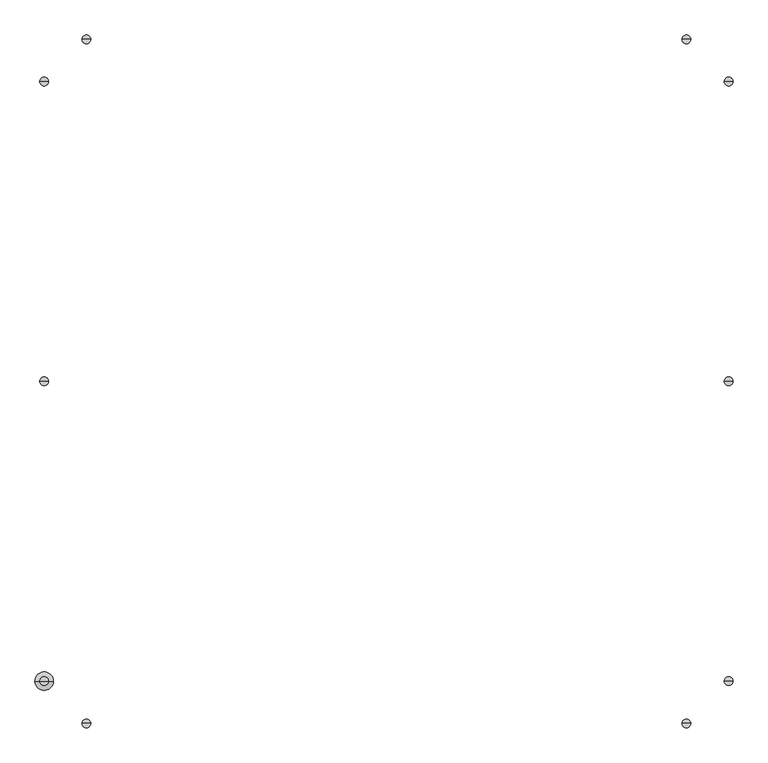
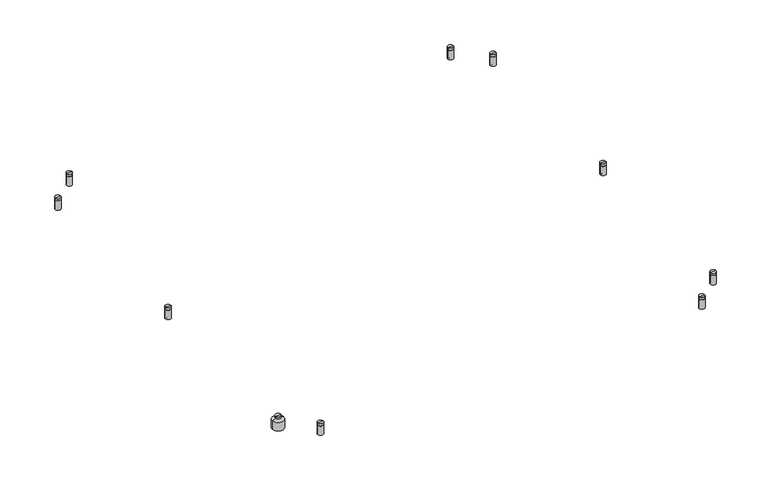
"""IFC4 building model written with IfcOpenShell, lengths in millimetres: light fixture geometry, ARTEMIDE-AoL-StandAlone-SquareRectangular_WallCeiling : StandALone_SemiRecessed_SquareRectangular-1911x1911mm 14020lm 3000K."""

from ifc_helpers import new_model, si_unit, frame, origin, place, context, project, spatial, polyline, circle_curve, source, transform, mapped, element, save
from ifc_brep_helpers import plane_surface, cylinder_surface, revolved_surface, advanced_brep


def light_fixture_c0763d3a(model_context):
    return source(origin(), model_context, "Body", "AdvancedBrep", [
        advanced_brep(
        [(25.0, 0.0, 54.0), (37.0, 0.0, 54.0), (13.0, 0.0, 54.0), (0.0, 0.0, 0.0), (50.0, 0.0, 0.0), (25.0, 0.0, 0.0), (0.0, 0.0, 37.5120373), (50.0, 0.0, 37.5120373), (13.0, 0.0, 44.4453706), (37.0, 0.0, 44.4453706)],
        [
            (0, 1),
            (1, 2, circle_curve(frame((25.0, 0.0, 54.0), z_axis=(0.0, 0.0, 1.0), x_axis=(1.0, 0.0, 0.0)), 12.0)),
            (2, 0),
            (2, 1, circle_curve(frame((25.0, 0.0, 54.0), z_axis=(0.0, 0.0, 1.0), x_axis=(1.0, 0.0, 0.0)), 12.0)),
            (3, 4, circle_curve(frame((25.0, 0.0, 0.0), z_axis=(0.0, 0.0, -1.0), x_axis=(1.0, 0.0, 0.0)), 25.0)),
            (4, 5),
            (5, 3),
            (4, 3, circle_curve(frame((25.0, 0.0, 0.0), z_axis=(0.0, 0.0, -1.0), x_axis=(1.0, 0.0, 0.0)), 25.0)),
            (6, 7, circle_curve(frame((25.0, 0.0, 37.5120373), z_axis=(0.0, 0.0, -1.0), x_axis=(1.0, 0.0, 0.0)), 25.0)),
            (7, 4),
            (3, 6),
            (7, 6, circle_curve(frame((25.0, 0.0, 37.5120373), z_axis=(0.0, 0.0, -1.0), x_axis=(1.0, 0.0, 0.0)), 25.0)),
            (8, 9, circle_curve(frame((25.0, 0.0, 44.4453706), z_axis=(0.0, 0.0, -1.0), x_axis=(1.0, 0.0, 0.0)), 12.0)),
            (9, 7),
            (6, 8),
            (9, 8, circle_curve(frame((25.0, 0.0, 44.4453706), z_axis=(0.0, 0.0, -1.0), x_axis=(1.0, 0.0, 0.0)), 12.0)),
            (1, 9),
            (8, 2),
        ],
        [
            plane_surface(frame((25.0, 0.0, 54.0), z_axis=(0.0, 0.0, 1.0), x_axis=(1.0, 0.0, 0.0))),
            plane_surface(frame((25.0, 0.0, 0.0), z_axis=(0.0, 0.0, -1.0), x_axis=(1.0, 0.0, 0.0))),
            cylinder_surface(frame((25.0, 0.0, -58.83358), z_axis=(0.0, 0.0, 1.0), x_axis=(1.0, 0.0, 0.0)), 25.0),
            revolved_surface(polyline([(50.0, 0.0, 37.5120373), (37.0, 0.0, 44.4453706)]), (25.0, 0.0, -58.83358), (0.0, 0.0, 1.0)),
            cylinder_surface(frame((25.0, 0.0, -58.83358), z_axis=(0.0, 0.0, 1.0), x_axis=(1.0, 0.0, 0.0)), 12.0),
        ],
        [
            (0, [[1, 2, 3]]),
            (0, [[-3, 4, -1]]),
            (1, [[5, 6, 7]]),
            (1, [[8, -7, -6]]),
            (2, [[9, 10, -5, 11]]),
            (2, [[12, -11, -8, -10]]),
            (3, [[13, 14, -9, 15]]),
            (3, [[16, -15, -12, -14]]),
            (4, [[-2, 17, -13, 18]]),
            (4, [[-4, -18, -16, -17]]),
        ],
    ),
        advanced_brep(
        [(152.0, 1746.0, 1.0), (128.0, 1746.0, 1.0), (134.5, 1746.0, 1.0), (145.5, 1746.0, 1.0), (152.0, 1746.0, 42.5), (128.0, 1746.0, 42.5), (149.5243756, 1746.0, 42.5), (130.4756244, 1746.0, 42.5), (149.5243756, 1746.0, 43.4995055), (130.4756244, 1746.0, 43.4995055), (152.0, 1746.0, 43.4995055), (128.0, 1746.0, 43.4995055), (152.0, 1746.0, 52.9579379), (128.0, 1746.0, 52.9579379), (140.0, 1746.0, 52.9579379), (145.5, 1746.0, 0.0), (134.5, 1746.0, 0.0), (140.0, 1746.0, 0.0)],
        [
            (0, 1, circle_curve(frame((140.0, 1746.0, 1.0), z_axis=(0.0, 0.0, -1.0), x_axis=(-1.0, 0.0, 0.0)), 12.0)),
            (1, 2),
            (2, 3, circle_curve(frame((140.0, 1746.0, 1.0), z_axis=(0.0, 0.0, 1.0), x_axis=(-1.0, 0.0, 0.0)), 5.5)),
            (3, 0),
            (1, 0, circle_curve(frame((140.0, 1746.0, 1.0), z_axis=(0.0, 0.0, -1.0), x_axis=(-1.0, 0.0, 0.0)), 12.0)),
            (3, 2, circle_curve(frame((140.0, 1746.0, 1.0), z_axis=(0.0, 0.0, 1.0), x_axis=(-1.0, 0.0, 0.0)), 5.5)),
            (4, 5, circle_curve(frame((140.0, 1746.0, 42.5), z_axis=(0.0, 0.0, -1.0), x_axis=(-1.0, 0.0, 0.0)), 12.0)),
            (5, 1),
            (0, 4),
            (5, 4, circle_curve(frame((140.0, 1746.0, 42.5), z_axis=(0.0, 0.0, -1.0), x_axis=(-1.0, 0.0, 0.0)), 12.0)),
            (6, 7, circle_curve(frame((140.0, 1746.0, 42.5), z_axis=(0.0, 0.0, -1.0), x_axis=(-1.0, 0.0, 0.0)), 9.5243756)),
            (7, 5),
            (4, 6),
            (7, 6, circle_curve(frame((140.0, 1746.0, 42.5), z_axis=(0.0, 0.0, -1.0), x_axis=(-1.0, 0.0, 0.0)), 9.5243756)),
            (8, 9, circle_curve(frame((140.0, 1746.0, 43.4995055), z_axis=(0.0, 0.0, -1.0), x_axis=(-1.0, 0.0, 0.0)), 9.5243756)),
            (9, 7),
            (6, 8),
            (9, 8, circle_curve(frame((140.0, 1746.0, 43.4995055), z_axis=(0.0, 0.0, -1.0), x_axis=(-1.0, 0.0, 0.0)), 9.5243756)),
            (10, 11, circle_curve(frame((140.0, 1746.0, 43.4995055), z_axis=(0.0, 0.0, -1.0), x_axis=(-1.0, 0.0, 0.0)), 12.0)),
            (11, 9),
            (8, 10),
            (11, 10, circle_curve(frame((140.0, 1746.0, 43.4995055), z_axis=(0.0, 0.0, -1.0), x_axis=(-1.0, 0.0, 0.0)), 12.0)),
            (12, 13, circle_curve(frame((140.0, 1746.0, 52.9579379), z_axis=(0.0, 0.0, -1.0), x_axis=(-1.0, 0.0, 0.0)), 12.0)),
            (13, 11),
            (10, 12),
            (13, 12, circle_curve(frame((140.0, 1746.0, 52.9579379), z_axis=(0.0, 0.0, -1.0), x_axis=(-1.0, 0.0, 0.0)), 12.0)),
            (14, 13),
            (12, 14),
            (15, 16, circle_curve(frame((140.0, 1746.0, 0.0), z_axis=(0.0, 0.0, -1.0), x_axis=(-1.0, 0.0, 0.0)), 5.5)),
            (16, 17),
            (17, 15),
            (16, 15, circle_curve(frame((140.0, 1746.0, 0.0), z_axis=(0.0, 0.0, -1.0), x_axis=(-1.0, 0.0, 0.0)), 5.5)),
            (2, 16),
            (15, 3),
        ],
        [
            plane_surface(frame((140.0, 1746.0, 1.0), z_axis=(0.0, 0.0, -1.0), x_axis=(-1.0, 0.0, 0.0))),
            cylinder_surface(frame((140.0, 1746.0, -58.83358), z_axis=(0.0, 0.0, 1.0), x_axis=(-1.0, 0.0, 0.0)), 12.0),
            plane_surface(frame((140.0, 1746.0, 42.5), z_axis=(0.0, 0.0, 1.0), x_axis=(-1.0, 0.0, 0.0))),
            cylinder_surface(frame((140.0, 1746.0, -58.83358), z_axis=(0.0, 0.0, 1.0), x_axis=(-1.0, 0.0, 0.0)), 9.5243756),
            plane_surface(frame((140.0, 1746.0, 43.4995055), z_axis=(0.0, 0.0, -1.0), x_axis=(-1.0, 0.0, 0.0))),
            plane_surface(frame((140.0, 1746.0, 52.9579379), z_axis=(0.0, 0.0, 1.0), x_axis=(-1.0, 0.0, 0.0))),
            plane_surface(frame((140.0, 1746.0, 0.0), z_axis=(0.0, 0.0, -1.0), x_axis=(-1.0, 0.0, 0.0))),
            cylinder_surface(frame((140.0, 1746.0, -58.83358), z_axis=(0.0, 0.0, 1.0), x_axis=(-1.0, 0.0, 0.0)), 5.5),
        ],
        [
            (0, [[1, 2, 3, 4]]),
            (0, [[5, -4, 6, -2]]),
            (1, [[7, 8, -1, 9]]),
            (1, [[10, -9, -5, -8]]),
            (2, [[11, 12, -7, 13]]),
            (2, [[14, -13, -10, -12]]),
            (3, [[15, 16, -11, 17]]),
            (3, [[18, -17, -14, -16]]),
            (4, [[19, 20, -15, 21]]),
            (4, [[22, -21, -18, -20]]),
            (1, [[23, 24, -19, 25]]),
            (1, [[26, -25, -22, -24]]),
            (5, [[27, -23, 28]]),
            (5, [[-28, -26, -27]]),
            (6, [[29, 30, 31]]),
            (6, [[32, -31, -30]]),
            (7, [[-3, 33, -29, 34]]),
            (7, [[-6, -34, -32, -33]]),
        ],
    ),
        advanced_brep(
        [(152.0, -115.0, 1.0), (128.0, -115.0, 1.0), (134.5, -115.0, 1.0), (145.5, -115.0, 1.0), (152.0, -115.0, 42.5), (128.0, -115.0, 42.5), (149.5243756, -115.0, 42.5), (130.4756244, -115.0, 42.5), (149.5243756, -115.0, 43.4995055), (130.4756244, -115.0, 43.4995055), (152.0, -115.0, 43.4995055), (128.0, -115.0, 43.4995055), (152.0, -115.0, 52.9579379), (128.0, -115.0, 52.9579379), (140.0, -115.0, 52.9579379), (145.5, -115.0, 0.0), (134.5, -115.0, 0.0), (140.0, -115.0, 0.0)],
        [
            (0, 1, circle_curve(frame((140.0, -115.0, 1.0), z_axis=(0.0, 0.0, -1.0), x_axis=(-1.0, 0.0, 0.0)), 12.0)),
            (1, 2),
            (2, 3, circle_curve(frame((140.0, -115.0, 1.0), z_axis=(0.0, 0.0, 1.0), x_axis=(-1.0, 0.0, 0.0)), 5.5)),
            (3, 0),
            (1, 0, circle_curve(frame((140.0, -115.0, 1.0), z_axis=(0.0, 0.0, -1.0), x_axis=(-1.0, 0.0, 0.0)), 12.0)),
            (3, 2, circle_curve(frame((140.0, -115.0, 1.0), z_axis=(0.0, 0.0, 1.0), x_axis=(-1.0, 0.0, 0.0)), 5.5)),
            (4, 5, circle_curve(frame((140.0, -115.0, 42.5), z_axis=(0.0, 0.0, -1.0), x_axis=(-1.0, 0.0, 0.0)), 12.0)),
            (5, 1),
            (0, 4),
            (5, 4, circle_curve(frame((140.0, -115.0, 42.5), z_axis=(0.0, 0.0, -1.0), x_axis=(-1.0, 0.0, 0.0)), 12.0)),
            (6, 7, circle_curve(frame((140.0, -115.0, 42.5), z_axis=(0.0, 0.0, -1.0), x_axis=(-1.0, 0.0, 0.0)), 9.5243756)),
            (7, 5),
            (4, 6),
            (7, 6, circle_curve(frame((140.0, -115.0, 42.5), z_axis=(0.0, 0.0, -1.0), x_axis=(-1.0, 0.0, 0.0)), 9.5243756)),
            (8, 9, circle_curve(frame((140.0, -115.0, 43.4995055), z_axis=(0.0, 0.0, -1.0), x_axis=(-1.0, 0.0, 0.0)), 9.5243756)),
            (9, 7),
            (6, 8),
            (9, 8, circle_curve(frame((140.0, -115.0, 43.4995055), z_axis=(0.0, 0.0, -1.0), x_axis=(-1.0, 0.0, 0.0)), 9.5243756)),
            (10, 11, circle_curve(frame((140.0, -115.0, 43.4995055), z_axis=(0.0, 0.0, -1.0), x_axis=(-1.0, 0.0, 0.0)), 12.0)),
            (11, 9),
            (8, 10),
            (11, 10, circle_curve(frame((140.0, -115.0, 43.4995055), z_axis=(0.0, 0.0, -1.0), x_axis=(-1.0, 0.0, 0.0)), 12.0)),
            (12, 13, circle_curve(frame((140.0, -115.0, 52.9579379), z_axis=(0.0, 0.0, -1.0), x_axis=(-1.0, 0.0, 0.0)), 12.0)),
            (13, 11),
            (10, 12),
            (13, 12, circle_curve(frame((140.0, -115.0, 52.9579379), z_axis=(0.0, 0.0, -1.0), x_axis=(-1.0, 0.0, 0.0)), 12.0)),
            (14, 13),
            (12, 14),
            (15, 16, circle_curve(frame((140.0, -115.0, 0.0), z_axis=(0.0, 0.0, -1.0), x_axis=(-1.0, 0.0, 0.0)), 5.5)),
            (16, 17),
            (17, 15),
            (16, 15, circle_curve(frame((140.0, -115.0, 0.0), z_axis=(0.0, 0.0, -1.0), x_axis=(-1.0, 0.0, 0.0)), 5.5)),
            (2, 16),
            (15, 3),
        ],
        [
            plane_surface(frame((140.0, -115.0, 1.0), z_axis=(0.0, 0.0, -1.0), x_axis=(-1.0, 0.0, 0.0))),
            cylinder_surface(frame((140.0, -115.0, -58.83358), z_axis=(0.0, 0.0, 1.0), x_axis=(-1.0, 0.0, 0.0)), 12.0),
            plane_surface(frame((140.0, -115.0, 42.5), z_axis=(0.0, 0.0, 1.0), x_axis=(-1.0, 0.0, 0.0))),
            cylinder_surface(frame((140.0, -115.0, -58.83358), z_axis=(0.0, 0.0, 1.0), x_axis=(-1.0, 0.0, 0.0)), 9.5243756),
            plane_surface(frame((140.0, -115.0, 43.4995055), z_axis=(0.0, 0.0, -1.0), x_axis=(-1.0, 0.0, 0.0))),
            plane_surface(frame((140.0, -115.0, 52.9579379), z_axis=(0.0, 0.0, 1.0), x_axis=(-1.0, 0.0, 0.0))),
            plane_surface(frame((140.0, -115.0, 0.0), z_axis=(0.0, 0.0, -1.0), x_axis=(-1.0, 0.0, 0.0))),
            cylinder_surface(frame((140.0, -115.0, -58.83358), z_axis=(0.0, 0.0, 1.0), x_axis=(-1.0, 0.0, 0.0)), 5.5),
        ],
        [
            (0, [[1, 2, 3, 4]]),
            (0, [[5, -4, 6, -2]]),
            (1, [[7, 8, -1, 9]]),
            (1, [[10, -9, -5, -8]]),
            (2, [[11, 12, -7, 13]]),
            (2, [[14, -13, -10, -12]]),
            (3, [[15, 16, -11, 17]]),
            (3, [[18, -17, -14, -16]]),
            (4, [[19, 20, -15, 21]]),
            (4, [[22, -21, -18, -20]]),
            (1, [[23, 24, -19, 25]]),
            (1, [[26, -25, -22, -24]]),
            (5, [[27, -23, 28]]),
            (5, [[-28, -26, -27]]),
            (6, [[29, 30, 31]]),
            (6, [[32, -31, -30]]),
            (7, [[-3, 33, -29, 34]]),
            (7, [[-6, -34, -32, -33]]),
        ],
    ),
        advanced_brep(
        [(1783.0, 1746.0, 1.0), (1759.0, 1746.0, 1.0), (1765.5, 1746.0, 1.0), (1776.5, 1746.0, 1.0), (1783.0, 1746.0, 42.5), (1759.0, 1746.0, 42.5), (1780.5243756, 1746.0, 42.5), (1761.4756244, 1746.0, 42.5), (1780.5243756, 1746.0, 43.4995055), (1761.4756244, 1746.0, 43.4995055), (1783.0, 1746.0, 43.4995055), (1759.0, 1746.0, 43.4995055), (1783.0, 1746.0, 52.9579379), (1759.0, 1746.0, 52.9579379), (1771.0, 1746.0, 52.9579379), (1776.5, 1746.0, 0.0), (1765.5, 1746.0, 0.0), (1771.0, 1746.0, 0.0)],
        [
            (0, 1, circle_curve(frame((1771.0, 1746.0, 1.0), z_axis=(0.0, 0.0, -1.0), x_axis=(-1.0, 0.0, 0.0)), 12.0)),
            (1, 2),
            (2, 3, circle_curve(frame((1771.0, 1746.0, 1.0), z_axis=(0.0, 0.0, 1.0), x_axis=(-1.0, 0.0, 0.0)), 5.5)),
            (3, 0),
            (1, 0, circle_curve(frame((1771.0, 1746.0, 1.0), z_axis=(0.0, 0.0, -1.0), x_axis=(-1.0, 0.0, 0.0)), 12.0)),
            (3, 2, circle_curve(frame((1771.0, 1746.0, 1.0), z_axis=(0.0, 0.0, 1.0), x_axis=(-1.0, 0.0, 0.0)), 5.5)),
            (4, 5, circle_curve(frame((1771.0, 1746.0, 42.5), z_axis=(0.0, 0.0, -1.0), x_axis=(-1.0, 0.0, 0.0)), 12.0)),
            (5, 1),
            (0, 4),
            (5, 4, circle_curve(frame((1771.0, 1746.0, 42.5), z_axis=(0.0, 0.0, -1.0), x_axis=(-1.0, 0.0, 0.0)), 12.0)),
            (6, 7, circle_curve(frame((1771.0, 1746.0, 42.5), z_axis=(0.0, 0.0, -1.0), x_axis=(-1.0, 0.0, 0.0)), 9.5243756)),
            (7, 5),
            (4, 6),
            (7, 6, circle_curve(frame((1771.0, 1746.0, 42.5), z_axis=(0.0, 0.0, -1.0), x_axis=(-1.0, 0.0, 0.0)), 9.5243756)),
            (8, 9, circle_curve(frame((1771.0, 1746.0, 43.4995055), z_axis=(0.0, 0.0, -1.0), x_axis=(-1.0, 0.0, 0.0)), 9.5243756)),
            (9, 7),
            (6, 8),
            (9, 8, circle_curve(frame((1771.0, 1746.0, 43.4995055), z_axis=(0.0, 0.0, -1.0), x_axis=(-1.0, 0.0, 0.0)), 9.5243756)),
            (10, 11, circle_curve(frame((1771.0, 1746.0, 43.4995055), z_axis=(0.0, 0.0, -1.0), x_axis=(-1.0, 0.0, 0.0)), 12.0)),
            (11, 9),
            (8, 10),
            (11, 10, circle_curve(frame((1771.0, 1746.0, 43.4995055), z_axis=(0.0, 0.0, -1.0), x_axis=(-1.0, 0.0, 0.0)), 12.0)),
            (12, 13, circle_curve(frame((1771.0, 1746.0, 52.9579379), z_axis=(0.0, 0.0, -1.0), x_axis=(-1.0, 0.0, 0.0)), 12.0)),
            (13, 11),
            (10, 12),
            (13, 12, circle_curve(frame((1771.0, 1746.0, 52.9579379), z_axis=(0.0, 0.0, -1.0), x_axis=(-1.0, 0.0, 0.0)), 12.0)),
            (14, 13),
            (12, 14),
            (15, 16, circle_curve(frame((1771.0, 1746.0, 0.0), z_axis=(0.0, 0.0, -1.0), x_axis=(-1.0, 0.0, 0.0)), 5.5)),
            (16, 17),
            (17, 15),
            (16, 15, circle_curve(frame((1771.0, 1746.0, 0.0), z_axis=(0.0, 0.0, -1.0), x_axis=(-1.0, 0.0, 0.0)), 5.5)),
            (2, 16),
            (15, 3),
        ],
        [
            plane_surface(frame((1771.0, 1746.0, 1.0), z_axis=(0.0, 0.0, -1.0), x_axis=(-1.0, 0.0, 0.0))),
            cylinder_surface(frame((1771.0, 1746.0, -58.83358), z_axis=(0.0, 0.0, 1.0), x_axis=(-1.0, 0.0, 0.0)), 12.0),
            plane_surface(frame((1771.0, 1746.0, 42.5), z_axis=(0.0, 0.0, 1.0), x_axis=(-1.0, 0.0, 0.0))),
            cylinder_surface(frame((1771.0, 1746.0, -58.83358), z_axis=(0.0, 0.0, 1.0), x_axis=(-1.0, 0.0, 0.0)), 9.5243756),
            plane_surface(frame((1771.0, 1746.0, 43.4995055), z_axis=(0.0, 0.0, -1.0), x_axis=(-1.0, 0.0, 0.0))),
            plane_surface(frame((1771.0, 1746.0, 52.9579379), z_axis=(0.0, 0.0, 1.0), x_axis=(-1.0, 0.0, 0.0))),
            plane_surface(frame((1771.0, 1746.0, 0.0), z_axis=(0.0, 0.0, -1.0), x_axis=(-1.0, 0.0, 0.0))),
            cylinder_surface(frame((1771.0, 1746.0, -58.83358), z_axis=(0.0, 0.0, 1.0), x_axis=(-1.0, 0.0, 0.0)), 5.5),
        ],
        [
            (0, [[1, 2, 3, 4]]),
            (0, [[5, -4, 6, -2]]),
            (1, [[7, 8, -1, 9]]),
            (1, [[10, -9, -5, -8]]),
            (2, [[11, 12, -7, 13]]),
            (2, [[14, -13, -10, -12]]),
            (3, [[15, 16, -11, 17]]),
            (3, [[18, -17, -14, -16]]),
            (4, [[19, 20, -15, 21]]),
            (4, [[22, -21, -18, -20]]),
            (1, [[23, 24, -19, 25]]),
            (1, [[26, -25, -22, -24]]),
            (5, [[27, -23, 28]]),
            (5, [[-28, -26, -27]]),
            (6, [[29, 30, 31]]),
            (6, [[32, -31, -30]]),
            (7, [[-3, 33, -29, 34]]),
            (7, [[-6, -34, -32, -33]]),
        ],
    ),
        advanced_brep(
        [(1783.0, -115.0, 1.0), (1759.0, -115.0, 1.0), (1765.5, -115.0, 1.0), (1776.5, -115.0, 1.0), (1783.0, -115.0, 42.5), (1759.0, -115.0, 42.5), (1780.5243756, -115.0, 42.5), (1761.4756244, -115.0, 42.5), (1780.5243756, -115.0, 43.4995055), (1761.4756244, -115.0, 43.4995055), (1783.0, -115.0, 43.4995055), (1759.0, -115.0, 43.4995055), (1783.0, -115.0, 52.9579379), (1759.0, -115.0, 52.9579379), (1771.0, -115.0, 52.9579379), (1776.5, -115.0, 0.0), (1765.5, -115.0, 0.0), (1771.0, -115.0, 0.0)],
        [
            (0, 1, circle_curve(frame((1771.0, -115.0, 1.0), z_axis=(0.0, 0.0, -1.0), x_axis=(-1.0, 0.0, 0.0)), 12.0)),
            (1, 2),
            (2, 3, circle_curve(frame((1771.0, -115.0, 1.0), z_axis=(0.0, 0.0, 1.0), x_axis=(-1.0, 0.0, 0.0)), 5.5)),
            (3, 0),
            (1, 0, circle_curve(frame((1771.0, -115.0, 1.0), z_axis=(0.0, 0.0, -1.0), x_axis=(-1.0, 0.0, 0.0)), 12.0)),
            (3, 2, circle_curve(frame((1771.0, -115.0, 1.0), z_axis=(0.0, 0.0, 1.0), x_axis=(-1.0, 0.0, 0.0)), 5.5)),
            (4, 5, circle_curve(frame((1771.0, -115.0, 42.5), z_axis=(0.0, 0.0, -1.0), x_axis=(-1.0, 0.0, 0.0)), 12.0)),
            (5, 1),
            (0, 4),
            (5, 4, circle_curve(frame((1771.0, -115.0, 42.5), z_axis=(0.0, 0.0, -1.0), x_axis=(-1.0, 0.0, 0.0)), 12.0)),
            (6, 7, circle_curve(frame((1771.0, -115.0, 42.5), z_axis=(0.0, 0.0, -1.0), x_axis=(-1.0, 0.0, 0.0)), 9.5243756)),
            (7, 5),
            (4, 6),
            (7, 6, circle_curve(frame((1771.0, -115.0, 42.5), z_axis=(0.0, 0.0, -1.0), x_axis=(-1.0, 0.0, 0.0)), 9.5243756)),
            (8, 9, circle_curve(frame((1771.0, -115.0, 43.4995055), z_axis=(0.0, 0.0, -1.0), x_axis=(-1.0, 0.0, 0.0)), 9.5243756)),
            (9, 7),
            (6, 8),
            (9, 8, circle_curve(frame((1771.0, -115.0, 43.4995055), z_axis=(0.0, 0.0, -1.0), x_axis=(-1.0, 0.0, 0.0)), 9.5243756)),
            (10, 11, circle_curve(frame((1771.0, -115.0, 43.4995055), z_axis=(0.0, 0.0, -1.0), x_axis=(-1.0, 0.0, 0.0)), 12.0)),
            (11, 9),
            (8, 10),
            (11, 10, circle_curve(frame((1771.0, -115.0, 43.4995055), z_axis=(0.0, 0.0, -1.0), x_axis=(-1.0, 0.0, 0.0)), 12.0)),
            (12, 13, circle_curve(frame((1771.0, -115.0, 52.9579379), z_axis=(0.0, 0.0, -1.0), x_axis=(-1.0, 0.0, 0.0)), 12.0)),
            (13, 11),
            (10, 12),
            (13, 12, circle_curve(frame((1771.0, -115.0, 52.9579379), z_axis=(0.0, 0.0, -1.0), x_axis=(-1.0, 0.0, 0.0)), 12.0)),
            (14, 13),
            (12, 14),
            (15, 16, circle_curve(frame((1771.0, -115.0, 0.0), z_axis=(0.0, 0.0, -1.0), x_axis=(-1.0, 0.0, 0.0)), 5.5)),
            (16, 17),
            (17, 15),
            (16, 15, circle_curve(frame((1771.0, -115.0, 0.0), z_axis=(0.0, 0.0, -1.0), x_axis=(-1.0, 0.0, 0.0)), 5.5)),
            (2, 16),
            (15, 3),
        ],
        [
            plane_surface(frame((1771.0, -115.0, 1.0), z_axis=(0.0, 0.0, -1.0), x_axis=(-1.0, 0.0, 0.0))),
            cylinder_surface(frame((1771.0, -115.0, -58.83358), z_axis=(0.0, 0.0, 1.0), x_axis=(-1.0, 0.0, 0.0)), 12.0),
            plane_surface(frame((1771.0, -115.0, 42.5), z_axis=(0.0, 0.0, 1.0), x_axis=(-1.0, 0.0, 0.0))),
            cylinder_surface(frame((1771.0, -115.0, -58.83358), z_axis=(0.0, 0.0, 1.0), x_axis=(-1.0, 0.0, 0.0)), 9.5243756),
            plane_surface(frame((1771.0, -115.0, 43.4995055), z_axis=(0.0, 0.0, -1.0), x_axis=(-1.0, 0.0, 0.0))),
            plane_surface(frame((1771.0, -115.0, 52.9579379), z_axis=(0.0, 0.0, 1.0), x_axis=(-1.0, 0.0, 0.0))),
            plane_surface(frame((1771.0, -115.0, 0.0), z_axis=(0.0, 0.0, -1.0), x_axis=(-1.0, 0.0, 0.0))),
            cylinder_surface(frame((1771.0, -115.0, -58.83358), z_axis=(0.0, 0.0, 1.0), x_axis=(-1.0, 0.0, 0.0)), 5.5),
        ],
        [
            (0, [[1, 2, 3, 4]]),
            (0, [[5, -4, 6, -2]]),
            (1, [[7, 8, -1, 9]]),
            (1, [[10, -9, -5, -8]]),
            (2, [[11, 12, -7, 13]]),
            (2, [[14, -13, -10, -12]]),
            (3, [[15, 16, -11, 17]]),
            (3, [[18, -17, -14, -16]]),
            (4, [[19, 20, -15, 21]]),
            (4, [[22, -21, -18, -20]]),
            (1, [[23, 24, -19, 25]]),
            (1, [[26, -25, -22, -24]]),
            (5, [[27, -23, 28]]),
            (5, [[-28, -26, -27]]),
            (6, [[29, 30, 31]]),
            (6, [[32, -31, -30]]),
            (7, [[-3, 33, -29, 34]]),
            (7, [[-6, -34, -32, -33]]),
        ],
    ),
        advanced_brep(
        [(37.0, 1631.0, 1.0), (13.0, 1631.0, 1.0), (19.5, 1631.0, 1.0), (30.5, 1631.0, 1.0), (37.0, 1631.0, 42.5), (13.0, 1631.0, 42.5), (34.5243756, 1631.0, 42.5), (15.4756244, 1631.0, 42.5), (34.5243756, 1631.0, 43.4995055), (15.4756244, 1631.0, 43.4995055), (37.0, 1631.0, 43.4995055), (13.0, 1631.0, 43.4995055), (37.0, 1631.0, 52.9579379), (13.0, 1631.0, 52.9579379), (25.0, 1631.0, 52.9579379), (30.5, 1631.0, 0.0), (19.5, 1631.0, 0.0), (25.0, 1631.0, 0.0)],
        [
            (0, 1, circle_curve(frame((25.0, 1631.0, 1.0), z_axis=(0.0, 0.0, -1.0), x_axis=(-1.0, 0.0, 0.0)), 12.0)),
            (1, 2),
            (2, 3, circle_curve(frame((25.0, 1631.0, 1.0), z_axis=(0.0, 0.0, 1.0), x_axis=(-1.0, 0.0, 0.0)), 5.5)),
            (3, 0),
            (1, 0, circle_curve(frame((25.0, 1631.0, 1.0), z_axis=(0.0, 0.0, -1.0), x_axis=(-1.0, 0.0, 0.0)), 12.0)),
            (3, 2, circle_curve(frame((25.0, 1631.0, 1.0), z_axis=(0.0, 0.0, 1.0), x_axis=(-1.0, 0.0, 0.0)), 5.5)),
            (4, 5, circle_curve(frame((25.0, 1631.0, 42.5), z_axis=(0.0, 0.0, -1.0), x_axis=(-1.0, 0.0, 0.0)), 12.0)),
            (5, 1),
            (0, 4),
            (5, 4, circle_curve(frame((25.0, 1631.0, 42.5), z_axis=(0.0, 0.0, -1.0), x_axis=(-1.0, 0.0, 0.0)), 12.0)),
            (6, 7, circle_curve(frame((25.0, 1631.0, 42.5), z_axis=(0.0, 0.0, -1.0), x_axis=(-1.0, 0.0, 0.0)), 9.5243756)),
            (7, 5),
            (4, 6),
            (7, 6, circle_curve(frame((25.0, 1631.0, 42.5), z_axis=(0.0, 0.0, -1.0), x_axis=(-1.0, 0.0, 0.0)), 9.5243756)),
            (8, 9, circle_curve(frame((25.0, 1631.0, 43.4995055), z_axis=(0.0, 0.0, -1.0), x_axis=(-1.0, 0.0, 0.0)), 9.5243756)),
            (9, 7),
            (6, 8),
            (9, 8, circle_curve(frame((25.0, 1631.0, 43.4995055), z_axis=(0.0, 0.0, -1.0), x_axis=(-1.0, 0.0, 0.0)), 9.5243756)),
            (10, 11, circle_curve(frame((25.0, 1631.0, 43.4995055), z_axis=(0.0, 0.0, -1.0), x_axis=(-1.0, 0.0, 0.0)), 12.0)),
            (11, 9),
            (8, 10),
            (11, 10, circle_curve(frame((25.0, 1631.0, 43.4995055), z_axis=(0.0, 0.0, -1.0), x_axis=(-1.0, 0.0, 0.0)), 12.0)),
            (12, 13, circle_curve(frame((25.0, 1631.0, 52.9579379), z_axis=(0.0, 0.0, -1.0), x_axis=(-1.0, 0.0, 0.0)), 12.0)),
            (13, 11),
            (10, 12),
            (13, 12, circle_curve(frame((25.0, 1631.0, 52.9579379), z_axis=(0.0, 0.0, -1.0), x_axis=(-1.0, 0.0, 0.0)), 12.0)),
            (14, 13),
            (12, 14),
            (15, 16, circle_curve(frame((25.0, 1631.0, 0.0), z_axis=(0.0, 0.0, -1.0), x_axis=(-1.0, 0.0, 0.0)), 5.5)),
            (16, 17),
            (17, 15),
            (16, 15, circle_curve(frame((25.0, 1631.0, 0.0), z_axis=(0.0, 0.0, -1.0), x_axis=(-1.0, 0.0, 0.0)), 5.5)),
            (2, 16),
            (15, 3),
        ],
        [
            plane_surface(frame((25.0, 1631.0, 1.0), z_axis=(0.0, 0.0, -1.0), x_axis=(-1.0, 0.0, 0.0))),
            cylinder_surface(frame((25.0, 1631.0, -58.83358), z_axis=(0.0, 0.0, 1.0), x_axis=(-1.0, 0.0, 0.0)), 12.0),
            plane_surface(frame((25.0, 1631.0, 42.5), z_axis=(0.0, 0.0, 1.0), x_axis=(-1.0, 0.0, 0.0))),
            cylinder_surface(frame((25.0, 1631.0, -58.83358), z_axis=(0.0, 0.0, 1.0), x_axis=(-1.0, 0.0, 0.0)), 9.5243756),
            plane_surface(frame((25.0, 1631.0, 43.4995055), z_axis=(0.0, 0.0, -1.0), x_axis=(-1.0, 0.0, 0.0))),
            plane_surface(frame((25.0, 1631.0, 52.9579379), z_axis=(0.0, 0.0, 1.0), x_axis=(-1.0, 0.0, 0.0))),
            plane_surface(frame((25.0, 1631.0, 0.0), z_axis=(0.0, 0.0, -1.0), x_axis=(-1.0, 0.0, 0.0))),
            cylinder_surface(frame((25.0, 1631.0, -58.83358), z_axis=(0.0, 0.0, 1.0), x_axis=(-1.0, 0.0, 0.0)), 5.5),
        ],
        [
            (0, [[1, 2, 3, 4]]),
            (0, [[5, -4, 6, -2]]),
            (1, [[7, 8, -1, 9]]),
            (1, [[10, -9, -5, -8]]),
            (2, [[11, 12, -7, 13]]),
            (2, [[14, -13, -10, -12]]),
            (3, [[15, 16, -11, 17]]),
            (3, [[18, -17, -14, -16]]),
            (4, [[19, 20, -15, 21]]),
            (4, [[22, -21, -18, -20]]),
            (1, [[23, 24, -19, 25]]),
            (1, [[26, -25, -22, -24]]),
            (5, [[27, -23, 28]]),
            (5, [[-28, -26, -27]]),
            (6, [[29, 30, 31]]),
            (6, [[32, -31, -30]]),
            (7, [[-3, 33, -29, 34]]),
            (7, [[-6, -34, -32, -33]]),
        ],
    ),
        advanced_brep(
        [(1898.0, 1631.0, 1.0), (1874.0, 1631.0, 1.0), (1880.5, 1631.0, 1.0), (1891.5, 1631.0, 1.0), (1898.0, 1631.0, 42.5), (1874.0, 1631.0, 42.5), (1895.5243756, 1631.0, 42.5), (1876.4756244, 1631.0, 42.5), (1895.5243756, 1631.0, 43.4995055), (1876.4756244, 1631.0, 43.4995055), (1898.0, 1631.0, 43.4995055), (1874.0, 1631.0, 43.4995055), (1898.0, 1631.0, 52.9579379), (1874.0, 1631.0, 52.9579379), (1886.0, 1631.0, 52.9579379), (1891.5, 1631.0, 0.0), (1880.5, 1631.0, 0.0), (1886.0, 1631.0, 0.0)],
        [
            (0, 1, circle_curve(frame((1886.0, 1631.0, 1.0), z_axis=(0.0, 0.0, -1.0), x_axis=(-1.0, 0.0, 0.0)), 12.0)),
            (1, 2),
            (2, 3, circle_curve(frame((1886.0, 1631.0, 1.0), z_axis=(0.0, 0.0, 1.0), x_axis=(-1.0, 0.0, 0.0)), 5.5)),
            (3, 0),
            (1, 0, circle_curve(frame((1886.0, 1631.0, 1.0), z_axis=(0.0, 0.0, -1.0), x_axis=(-1.0, 0.0, 0.0)), 12.0)),
            (3, 2, circle_curve(frame((1886.0, 1631.0, 1.0), z_axis=(0.0, 0.0, 1.0), x_axis=(-1.0, 0.0, 0.0)), 5.5)),
            (4, 5, circle_curve(frame((1886.0, 1631.0, 42.5), z_axis=(0.0, 0.0, -1.0), x_axis=(-1.0, 0.0, 0.0)), 12.0)),
            (5, 1),
            (0, 4),
            (5, 4, circle_curve(frame((1886.0, 1631.0, 42.5), z_axis=(0.0, 0.0, -1.0), x_axis=(-1.0, 0.0, 0.0)), 12.0)),
            (6, 7, circle_curve(frame((1886.0, 1631.0, 42.5), z_axis=(0.0, 0.0, -1.0), x_axis=(-1.0, 0.0, 0.0)), 9.5243756)),
            (7, 5),
            (4, 6),
            (7, 6, circle_curve(frame((1886.0, 1631.0, 42.5), z_axis=(0.0, 0.0, -1.0), x_axis=(-1.0, 0.0, 0.0)), 9.5243756)),
            (8, 9, circle_curve(frame((1886.0, 1631.0, 43.4995055), z_axis=(0.0, 0.0, -1.0), x_axis=(-1.0, 0.0, 0.0)), 9.5243756)),
            (9, 7),
            (6, 8),
            (9, 8, circle_curve(frame((1886.0, 1631.0, 43.4995055), z_axis=(0.0, 0.0, -1.0), x_axis=(-1.0, 0.0, 0.0)), 9.5243756)),
            (10, 11, circle_curve(frame((1886.0, 1631.0, 43.4995055), z_axis=(0.0, 0.0, -1.0), x_axis=(-1.0, 0.0, 0.0)), 12.0)),
            (11, 9),
            (8, 10),
            (11, 10, circle_curve(frame((1886.0, 1631.0, 43.4995055), z_axis=(0.0, 0.0, -1.0), x_axis=(-1.0, 0.0, 0.0)), 12.0)),
            (12, 13, circle_curve(frame((1886.0, 1631.0, 52.9579379), z_axis=(0.0, 0.0, -1.0), x_axis=(-1.0, 0.0, 0.0)), 12.0)),
            (13, 11),
            (10, 12),
            (13, 12, circle_curve(frame((1886.0, 1631.0, 52.9579379), z_axis=(0.0, 0.0, -1.0), x_axis=(-1.0, 0.0, 0.0)), 12.0)),
            (14, 13),
            (12, 14),
            (15, 16, circle_curve(frame((1886.0, 1631.0, 0.0), z_axis=(0.0, 0.0, -1.0), x_axis=(-1.0, 0.0, 0.0)), 5.5)),
            (16, 17),
            (17, 15),
            (16, 15, circle_curve(frame((1886.0, 1631.0, 0.0), z_axis=(0.0, 0.0, -1.0), x_axis=(-1.0, 0.0, 0.0)), 5.5)),
            (2, 16),
            (15, 3),
        ],
        [
            plane_surface(frame((1886.0, 1631.0, 1.0), z_axis=(0.0, 0.0, -1.0), x_axis=(-1.0, 0.0, 0.0))),
            cylinder_surface(frame((1886.0, 1631.0, -58.83358), z_axis=(0.0, 0.0, 1.0), x_axis=(-1.0, 0.0, 0.0)), 12.0),
            plane_surface(frame((1886.0, 1631.0, 42.5), z_axis=(0.0, 0.0, 1.0), x_axis=(-1.0, 0.0, 0.0))),
            cylinder_surface(frame((1886.0, 1631.0, -58.83358), z_axis=(0.0, 0.0, 1.0), x_axis=(-1.0, 0.0, 0.0)), 9.5243756),
            plane_surface(frame((1886.0, 1631.0, 43.4995055), z_axis=(0.0, 0.0, -1.0), x_axis=(-1.0, 0.0, 0.0))),
            plane_surface(frame((1886.0, 1631.0, 52.9579379), z_axis=(0.0, 0.0, 1.0), x_axis=(-1.0, 0.0, 0.0))),
            plane_surface(frame((1886.0, 1631.0, 0.0), z_axis=(0.0, 0.0, -1.0), x_axis=(-1.0, 0.0, 0.0))),
            cylinder_surface(frame((1886.0, 1631.0, -58.83358), z_axis=(0.0, 0.0, 1.0), x_axis=(-1.0, 0.0, 0.0)), 5.5),
        ],
        [
            (0, [[1, 2, 3, 4]]),
            (0, [[5, -4, 6, -2]]),
            (1, [[7, 8, -1, 9]]),
            (1, [[10, -9, -5, -8]]),
            (2, [[11, 12, -7, 13]]),
            (2, [[14, -13, -10, -12]]),
            (3, [[15, 16, -11, 17]]),
            (3, [[18, -17, -14, -16]]),
            (4, [[19, 20, -15, 21]]),
            (4, [[22, -21, -18, -20]]),
            (1, [[23, 24, -19, 25]]),
            (1, [[26, -25, -22, -24]]),
            (5, [[27, -23, 28]]),
            (5, [[-28, -26, -27]]),
            (6, [[29, 30, 31]]),
            (6, [[32, -31, -30]]),
            (7, [[-3, 33, -29, 34]]),
            (7, [[-6, -34, -32, -33]]),
        ],
    ),
        advanced_brep(
        [(37.0, 0.0, 1.0), (13.0, 0.0, 1.0), (19.5, 0.0, 1.0), (30.5, 0.0, 1.0), (37.0, 0.0, 42.5), (13.0, 0.0, 42.5), (34.5243756, 0.0, 42.5), (15.4756244, 0.0, 42.5), (34.5243756, 0.0, 43.4995055), (15.4756244, 0.0, 43.4995055), (37.0, 0.0, 43.4995055), (13.0, 0.0, 43.4995055), (37.0, 0.0, 52.9579379), (13.0, 0.0, 52.9579379), (25.0, 0.0, 52.9579379), (30.5, 0.0, 0.0), (19.5, 0.0, 0.0), (25.0, 0.0, 0.0)],
        [
            (0, 1, circle_curve(frame((25.0, 0.0, 1.0), z_axis=(0.0, 0.0, -1.0), x_axis=(-1.0, 0.0, 0.0)), 12.0)),
            (1, 2),
            (2, 3, circle_curve(frame((25.0, 0.0, 1.0), z_axis=(0.0, 0.0, 1.0), x_axis=(-1.0, 0.0, 0.0)), 5.5)),
            (3, 0),
            (1, 0, circle_curve(frame((25.0, 0.0, 1.0), z_axis=(0.0, 0.0, -1.0), x_axis=(-1.0, 0.0, 0.0)), 12.0)),
            (3, 2, circle_curve(frame((25.0, 0.0, 1.0), z_axis=(0.0, 0.0, 1.0), x_axis=(-1.0, 0.0, 0.0)), 5.5)),
            (4, 5, circle_curve(frame((25.0, 0.0, 42.5), z_axis=(0.0, 0.0, -1.0), x_axis=(-1.0, 0.0, 0.0)), 12.0)),
            (5, 1),
            (0, 4),
            (5, 4, circle_curve(frame((25.0, 0.0, 42.5), z_axis=(0.0, 0.0, -1.0), x_axis=(-1.0, 0.0, 0.0)), 12.0)),
            (6, 7, circle_curve(frame((25.0, 0.0, 42.5), z_axis=(0.0, 0.0, -1.0), x_axis=(-1.0, 0.0, 0.0)), 9.5243756)),
            (7, 5),
            (4, 6),
            (7, 6, circle_curve(frame((25.0, 0.0, 42.5), z_axis=(0.0, 0.0, -1.0), x_axis=(-1.0, 0.0, 0.0)), 9.5243756)),
            (8, 9, circle_curve(frame((25.0, 0.0, 43.4995055), z_axis=(0.0, 0.0, -1.0), x_axis=(-1.0, 0.0, 0.0)), 9.5243756)),
            (9, 7),
            (6, 8),
            (9, 8, circle_curve(frame((25.0, 0.0, 43.4995055), z_axis=(0.0, 0.0, -1.0), x_axis=(-1.0, 0.0, 0.0)), 9.5243756)),
            (10, 11, circle_curve(frame((25.0, 0.0, 43.4995055), z_axis=(0.0, 0.0, -1.0), x_axis=(-1.0, 0.0, 0.0)), 12.0)),
            (11, 9),
            (8, 10),
            (11, 10, circle_curve(frame((25.0, 0.0, 43.4995055), z_axis=(0.0, 0.0, -1.0), x_axis=(-1.0, 0.0, 0.0)), 12.0)),
            (12, 13, circle_curve(frame((25.0, 0.0, 52.9579379), z_axis=(0.0, 0.0, -1.0), x_axis=(-1.0, 0.0, 0.0)), 12.0)),
            (13, 11),
            (10, 12),
            (13, 12, circle_curve(frame((25.0, 0.0, 52.9579379), z_axis=(0.0, 0.0, -1.0), x_axis=(-1.0, 0.0, 0.0)), 12.0)),
            (14, 13),
            (12, 14),
            (15, 16, circle_curve(frame((25.0, 0.0, 0.0), z_axis=(0.0, 0.0, -1.0), x_axis=(-1.0, 0.0, 0.0)), 5.5)),
            (16, 17),
            (17, 15),
            (16, 15, circle_curve(frame((25.0, 0.0, 0.0), z_axis=(0.0, 0.0, -1.0), x_axis=(-1.0, 0.0, 0.0)), 5.5)),
            (2, 16),
            (15, 3),
        ],
        [
            plane_surface(frame((25.0, 0.0, 1.0), z_axis=(0.0, 0.0, -1.0), x_axis=(-1.0, 0.0, 0.0))),
            cylinder_surface(frame((25.0, 0.0, -58.83358), z_axis=(0.0, 0.0, 1.0), x_axis=(-1.0, 0.0, 0.0)), 12.0),
            plane_surface(frame((25.0, 0.0, 42.5), z_axis=(0.0, 0.0, 1.0), x_axis=(-1.0, 0.0, 0.0))),
            cylinder_surface(frame((25.0, 0.0, -58.83358), z_axis=(0.0, 0.0, 1.0), x_axis=(-1.0, 0.0, 0.0)), 9.5243756),
            plane_surface(frame((25.0, 0.0, 43.4995055), z_axis=(0.0, 0.0, -1.0), x_axis=(-1.0, 0.0, 0.0))),
            plane_surface(frame((25.0, 0.0, 52.9579379), z_axis=(0.0, 0.0, 1.0), x_axis=(-1.0, 0.0, 0.0))),
            plane_surface(frame((25.0, 0.0, 0.0), z_axis=(0.0, 0.0, -1.0), x_axis=(-1.0, 0.0, 0.0))),
            cylinder_surface(frame((25.0, 0.0, -58.83358), z_axis=(0.0, 0.0, 1.0), x_axis=(-1.0, 0.0, 0.0)), 5.5),
        ],
        [
            (0, [[1, 2, 3, 4]]),
            (0, [[5, -4, 6, -2]]),
            (1, [[7, 8, -1, 9]]),
            (1, [[10, -9, -5, -8]]),
            (2, [[11, 12, -7, 13]]),
            (2, [[14, -13, -10, -12]]),
            (3, [[15, 16, -11, 17]]),
            (3, [[18, -17, -14, -16]]),
            (4, [[19, 20, -15, 21]]),
            (4, [[22, -21, -18, -20]]),
            (1, [[23, 24, -19, 25]]),
            (1, [[26, -25, -22, -24]]),
            (5, [[27, -23, 28]]),
            (5, [[-28, -26, -27]]),
            (6, [[29, 30, 31]]),
            (6, [[32, -31, -30]]),
            (7, [[-3, 33, -29, 34]]),
            (7, [[-6, -34, -32, -33]]),
        ],
    ),
        advanced_brep(
        [(1898.0, 0.0, 1.0), (1874.0, 0.0, 1.0), (1880.5, 0.0, 1.0), (1891.5, 0.0, 1.0), (1898.0, 0.0, 42.5), (1874.0, 0.0, 42.5), (1895.5243756, 0.0, 42.5), (1876.4756244, 0.0, 42.5), (1895.5243756, 0.0, 43.4995055), (1876.4756244, 0.0, 43.4995055), (1898.0, 0.0, 43.4995055), (1874.0, 0.0, 43.4995055), (1898.0, 0.0, 52.9579379), (1874.0, 0.0, 52.9579379), (1886.0, 0.0, 52.9579379), (1891.5, 0.0, 0.0), (1880.5, 0.0, 0.0), (1886.0, 0.0, 0.0)],
        [
            (0, 1, circle_curve(frame((1886.0, 0.0, 1.0), z_axis=(0.0, 0.0, -1.0), x_axis=(-1.0, 0.0, 0.0)), 12.0)),
            (1, 2),
            (2, 3, circle_curve(frame((1886.0, 0.0, 1.0), z_axis=(0.0, 0.0, 1.0), x_axis=(-1.0, 0.0, 0.0)), 5.5)),
            (3, 0),
            (1, 0, circle_curve(frame((1886.0, 0.0, 1.0), z_axis=(0.0, 0.0, -1.0), x_axis=(-1.0, 0.0, 0.0)), 12.0)),
            (3, 2, circle_curve(frame((1886.0, 0.0, 1.0), z_axis=(0.0, 0.0, 1.0), x_axis=(-1.0, 0.0, 0.0)), 5.5)),
            (4, 5, circle_curve(frame((1886.0, 0.0, 42.5), z_axis=(0.0, 0.0, -1.0), x_axis=(-1.0, 0.0, 0.0)), 12.0)),
            (5, 1),
            (0, 4),
            (5, 4, circle_curve(frame((1886.0, 0.0, 42.5), z_axis=(0.0, 0.0, -1.0), x_axis=(-1.0, 0.0, 0.0)), 12.0)),
            (6, 7, circle_curve(frame((1886.0, 0.0, 42.5), z_axis=(0.0, 0.0, -1.0), x_axis=(-1.0, 0.0, 0.0)), 9.5243756)),
            (7, 5),
            (4, 6),
            (7, 6, circle_curve(frame((1886.0, 0.0, 42.5), z_axis=(0.0, 0.0, -1.0), x_axis=(-1.0, 0.0, 0.0)), 9.5243756)),
            (8, 9, circle_curve(frame((1886.0, 0.0, 43.4995055), z_axis=(0.0, 0.0, -1.0), x_axis=(-1.0, 0.0, 0.0)), 9.5243756)),
            (9, 7),
            (6, 8),
            (9, 8, circle_curve(frame((1886.0, 0.0, 43.4995055), z_axis=(0.0, 0.0, -1.0), x_axis=(-1.0, 0.0, 0.0)), 9.5243756)),
            (10, 11, circle_curve(frame((1886.0, 0.0, 43.4995055), z_axis=(0.0, 0.0, -1.0), x_axis=(-1.0, 0.0, 0.0)), 12.0)),
            (11, 9),
            (8, 10),
            (11, 10, circle_curve(frame((1886.0, 0.0, 43.4995055), z_axis=(0.0, 0.0, -1.0), x_axis=(-1.0, 0.0, 0.0)), 12.0)),
            (12, 13, circle_curve(frame((1886.0, 0.0, 52.9579379), z_axis=(0.0, 0.0, -1.0), x_axis=(-1.0, 0.0, 0.0)), 12.0)),
            (13, 11),
            (10, 12),
            (13, 12, circle_curve(frame((1886.0, 0.0, 52.9579379), z_axis=(0.0, 0.0, -1.0), x_axis=(-1.0, 0.0, 0.0)), 12.0)),
            (14, 13),
            (12, 14),
            (15, 16, circle_curve(frame((1886.0, 0.0, 0.0), z_axis=(0.0, 0.0, -1.0), x_axis=(-1.0, 0.0, 0.0)), 5.5)),
            (16, 17),
            (17, 15),
            (16, 15, circle_curve(frame((1886.0, 0.0, 0.0), z_axis=(0.0, 0.0, -1.0), x_axis=(-1.0, 0.0, 0.0)), 5.5)),
            (2, 16),
            (15, 3),
        ],
        [
            plane_surface(frame((1886.0, 0.0, 1.0), z_axis=(0.0, 0.0, -1.0), x_axis=(-1.0, 0.0, 0.0))),
            cylinder_surface(frame((1886.0, 0.0, -58.83358), z_axis=(0.0, 0.0, 1.0), x_axis=(-1.0, 0.0, 0.0)), 12.0),
            plane_surface(frame((1886.0, 0.0, 42.5), z_axis=(0.0, 0.0, 1.0), x_axis=(-1.0, 0.0, 0.0))),
            cylinder_surface(frame((1886.0, 0.0, -58.83358), z_axis=(0.0, 0.0, 1.0), x_axis=(-1.0, 0.0, 0.0)), 9.5243756),
            plane_surface(frame((1886.0, 0.0, 43.4995055), z_axis=(0.0, 0.0, -1.0), x_axis=(-1.0, 0.0, 0.0))),
            plane_surface(frame((1886.0, 0.0, 52.9579379), z_axis=(0.0, 0.0, 1.0), x_axis=(-1.0, 0.0, 0.0))),
            plane_surface(frame((1886.0, 0.0, 0.0), z_axis=(0.0, 0.0, -1.0), x_axis=(-1.0, 0.0, 0.0))),
            cylinder_surface(frame((1886.0, 0.0, -58.83358), z_axis=(0.0, 0.0, 1.0), x_axis=(-1.0, 0.0, 0.0)), 5.5),
        ],
        [
            (0, [[1, 2, 3, 4]]),
            (0, [[5, -4, 6, -2]]),
            (1, [[7, 8, -1, 9]]),
            (1, [[10, -9, -5, -8]]),
            (2, [[11, 12, -7, 13]]),
            (2, [[14, -13, -10, -12]]),
            (3, [[15, 16, -11, 17]]),
            (3, [[18, -17, -14, -16]]),
            (4, [[19, 20, -15, 21]]),
            (4, [[22, -21, -18, -20]]),
            (1, [[23, 24, -19, 25]]),
            (1, [[26, -25, -22, -24]]),
            (5, [[27, -23, 28]]),
            (5, [[-28, -26, -27]]),
            (6, [[29, 30, 31]]),
            (6, [[32, -31, -30]]),
            (7, [[-3, 33, -29, 34]]),
            (7, [[-6, -34, -32, -33]]),
        ],
    ),
        advanced_brep(
        [(37.0, 815.5, 1.0), (13.0, 815.5, 1.0), (19.5, 815.5, 1.0), (30.5, 815.5, 1.0), (37.0, 815.5, 42.5), (13.0, 815.5, 42.5), (34.5243756, 815.5, 42.5), (15.4756244, 815.5, 42.5), (34.5243756, 815.5, 43.4995055), (15.4756244, 815.5, 43.4995055), (37.0, 815.5, 43.4995055), (13.0, 815.5, 43.4995055), (37.0, 815.5, 52.9579379), (13.0, 815.5, 52.9579379), (25.0, 815.5, 52.9579379), (30.5, 815.5, 0.0), (19.5, 815.5, 0.0), (25.0, 815.5, 0.0)],
        [
            (0, 1, circle_curve(frame((25.0, 815.5, 1.0), z_axis=(0.0, 0.0, -1.0), x_axis=(-1.0, 0.0, 0.0)), 12.0)),
            (1, 2),
            (2, 3, circle_curve(frame((25.0, 815.5, 1.0), z_axis=(0.0, 0.0, 1.0), x_axis=(-1.0, 0.0, 0.0)), 5.5)),
            (3, 0),
            (1, 0, circle_curve(frame((25.0, 815.5, 1.0), z_axis=(0.0, 0.0, -1.0), x_axis=(-1.0, 0.0, 0.0)), 12.0)),
            (3, 2, circle_curve(frame((25.0, 815.5, 1.0), z_axis=(0.0, 0.0, 1.0), x_axis=(-1.0, 0.0, 0.0)), 5.5)),
            (4, 5, circle_curve(frame((25.0, 815.5, 42.5), z_axis=(0.0, 0.0, -1.0), x_axis=(-1.0, 0.0, 0.0)), 12.0)),
            (5, 1),
            (0, 4),
            (5, 4, circle_curve(frame((25.0, 815.5, 42.5), z_axis=(0.0, 0.0, -1.0), x_axis=(-1.0, 0.0, 0.0)), 12.0)),
            (6, 7, circle_curve(frame((25.0, 815.5, 42.5), z_axis=(0.0, 0.0, -1.0), x_axis=(-1.0, 0.0, 0.0)), 9.5243756)),
            (7, 5),
            (4, 6),
            (7, 6, circle_curve(frame((25.0, 815.5, 42.5), z_axis=(0.0, 0.0, -1.0), x_axis=(-1.0, 0.0, 0.0)), 9.5243756)),
            (8, 9, circle_curve(frame((25.0, 815.5, 43.4995055), z_axis=(0.0, 0.0, -1.0), x_axis=(-1.0, 0.0, 0.0)), 9.5243756)),
            (9, 7),
            (6, 8),
            (9, 8, circle_curve(frame((25.0, 815.5, 43.4995055), z_axis=(0.0, 0.0, -1.0), x_axis=(-1.0, 0.0, 0.0)), 9.5243756)),
            (10, 11, circle_curve(frame((25.0, 815.5, 43.4995055), z_axis=(0.0, 0.0, -1.0), x_axis=(-1.0, 0.0, 0.0)), 12.0)),
            (11, 9),
            (8, 10),
            (11, 10, circle_curve(frame((25.0, 815.5, 43.4995055), z_axis=(0.0, 0.0, -1.0), x_axis=(-1.0, 0.0, 0.0)), 12.0)),
            (12, 13, circle_curve(frame((25.0, 815.5, 52.9579379), z_axis=(0.0, 0.0, -1.0), x_axis=(-1.0, 0.0, 0.0)), 12.0)),
            (13, 11),
            (10, 12),
            (13, 12, circle_curve(frame((25.0, 815.5, 52.9579379), z_axis=(0.0, 0.0, -1.0), x_axis=(-1.0, 0.0, 0.0)), 12.0)),
            (14, 13),
            (12, 14),
            (15, 16, circle_curve(frame((25.0, 815.5, 0.0), z_axis=(0.0, 0.0, -1.0), x_axis=(-1.0, 0.0, 0.0)), 5.5)),
            (16, 17),
            (17, 15),
            (16, 15, circle_curve(frame((25.0, 815.5, 0.0), z_axis=(0.0, 0.0, -1.0), x_axis=(-1.0, 0.0, 0.0)), 5.5)),
            (2, 16),
            (15, 3),
        ],
        [
            plane_surface(frame((25.0, 815.5, 1.0), z_axis=(0.0, 0.0, -1.0), x_axis=(-1.0, 0.0, 0.0))),
            cylinder_surface(frame((25.0, 815.5, -58.83358), z_axis=(0.0, 0.0, 1.0), x_axis=(-1.0, 0.0, 0.0)), 12.0),
            plane_surface(frame((25.0, 815.5, 42.5), z_axis=(0.0, 0.0, 1.0), x_axis=(-1.0, 0.0, 0.0))),
            cylinder_surface(frame((25.0, 815.5, -58.83358), z_axis=(0.0, 0.0, 1.0), x_axis=(-1.0, 0.0, 0.0)), 9.5243756),
            plane_surface(frame((25.0, 815.5, 43.4995055), z_axis=(0.0, 0.0, -1.0), x_axis=(-1.0, 0.0, 0.0))),
            plane_surface(frame((25.0, 815.5, 52.9579379), z_axis=(0.0, 0.0, 1.0), x_axis=(-1.0, 0.0, 0.0))),
            plane_surface(frame((25.0, 815.5, 0.0), z_axis=(0.0, 0.0, -1.0), x_axis=(-1.0, 0.0, 0.0))),
            cylinder_surface(frame((25.0, 815.5, -58.83358), z_axis=(0.0, 0.0, 1.0), x_axis=(-1.0, 0.0, 0.0)), 5.5),
        ],
        [
            (0, [[1, 2, 3, 4]]),
            (0, [[5, -4, 6, -2]]),
            (1, [[7, 8, -1, 9]]),
            (1, [[10, -9, -5, -8]]),
            (2, [[11, 12, -7, 13]]),
            (2, [[14, -13, -10, -12]]),
            (3, [[15, 16, -11, 17]]),
            (3, [[18, -17, -14, -16]]),
            (4, [[19, 20, -15, 21]]),
            (4, [[22, -21, -18, -20]]),
            (1, [[23, 24, -19, 25]]),
            (1, [[26, -25, -22, -24]]),
            (5, [[27, -23, 28]]),
            (5, [[-28, -26, -27]]),
            (6, [[29, 30, 31]]),
            (6, [[32, -31, -30]]),
            (7, [[-3, 33, -29, 34]]),
            (7, [[-6, -34, -32, -33]]),
        ],
    ),
        advanced_brep(
        [(1898.0, 815.5, 1.0), (1874.0, 815.5, 1.0), (1880.5, 815.5, 1.0), (1891.5, 815.5, 1.0), (1898.0, 815.5, 42.5), (1874.0, 815.5, 42.5), (1895.5243756, 815.5, 42.5), (1876.4756244, 815.5, 42.5), (1895.5243756, 815.5, 43.4995055), (1876.4756244, 815.5, 43.4995055), (1898.0, 815.5, 43.4995055), (1874.0, 815.5, 43.4995055), (1898.0, 815.5, 52.9579379), (1874.0, 815.5, 52.9579379), (1886.0, 815.5, 52.9579379), (1891.5, 815.5, 0.0), (1880.5, 815.5, 0.0), (1886.0, 815.5, 0.0)],
        [
            (0, 1, circle_curve(frame((1886.0, 815.5, 1.0), z_axis=(0.0, 0.0, -1.0), x_axis=(-1.0, 0.0, 0.0)), 12.0)),
            (1, 2),
            (2, 3, circle_curve(frame((1886.0, 815.5, 1.0), z_axis=(0.0, 0.0, 1.0), x_axis=(-1.0, 0.0, 0.0)), 5.5)),
            (3, 0),
            (1, 0, circle_curve(frame((1886.0, 815.5, 1.0), z_axis=(0.0, 0.0, -1.0), x_axis=(-1.0, 0.0, 0.0)), 12.0)),
            (3, 2, circle_curve(frame((1886.0, 815.5, 1.0), z_axis=(0.0, 0.0, 1.0), x_axis=(-1.0, 0.0, 0.0)), 5.5)),
            (4, 5, circle_curve(frame((1886.0, 815.5, 42.5), z_axis=(0.0, 0.0, -1.0), x_axis=(-1.0, 0.0, 0.0)), 12.0)),
            (5, 1),
            (0, 4),
            (5, 4, circle_curve(frame((1886.0, 815.5, 42.5), z_axis=(0.0, 0.0, -1.0), x_axis=(-1.0, 0.0, 0.0)), 12.0)),
            (6, 7, circle_curve(frame((1886.0, 815.5, 42.5), z_axis=(0.0, 0.0, -1.0), x_axis=(-1.0, 0.0, 0.0)), 9.5243756)),
            (7, 5),
            (4, 6),
            (7, 6, circle_curve(frame((1886.0, 815.5, 42.5), z_axis=(0.0, 0.0, -1.0), x_axis=(-1.0, 0.0, 0.0)), 9.5243756)),
            (8, 9, circle_curve(frame((1886.0, 815.5, 43.4995055), z_axis=(0.0, 0.0, -1.0), x_axis=(-1.0, 0.0, 0.0)), 9.5243756)),
            (9, 7),
            (6, 8),
            (9, 8, circle_curve(frame((1886.0, 815.5, 43.4995055), z_axis=(0.0, 0.0, -1.0), x_axis=(-1.0, 0.0, 0.0)), 9.5243756)),
            (10, 11, circle_curve(frame((1886.0, 815.5, 43.4995055), z_axis=(0.0, 0.0, -1.0), x_axis=(-1.0, 0.0, 0.0)), 12.0)),
            (11, 9),
            (8, 10),
            (11, 10, circle_curve(frame((1886.0, 815.5, 43.4995055), z_axis=(0.0, 0.0, -1.0), x_axis=(-1.0, 0.0, 0.0)), 12.0)),
            (12, 13, circle_curve(frame((1886.0, 815.5, 52.9579379), z_axis=(0.0, 0.0, -1.0), x_axis=(-1.0, 0.0, 0.0)), 12.0)),
            (13, 11),
            (10, 12),
            (13, 12, circle_curve(frame((1886.0, 815.5, 52.9579379), z_axis=(0.0, 0.0, -1.0), x_axis=(-1.0, 0.0, 0.0)), 12.0)),
            (14, 13),
            (12, 14),
            (15, 16, circle_curve(frame((1886.0, 815.5, 0.0), z_axis=(0.0, 0.0, -1.0), x_axis=(-1.0, 0.0, 0.0)), 5.5)),
            (16, 17),
            (17, 15),
            (16, 15, circle_curve(frame((1886.0, 815.5, 0.0), z_axis=(0.0, 0.0, -1.0), x_axis=(-1.0, 0.0, 0.0)), 5.5)),
            (2, 16),
            (15, 3),
        ],
        [
            plane_surface(frame((1886.0, 815.5, 1.0), z_axis=(0.0, 0.0, -1.0), x_axis=(-1.0, 0.0, 0.0))),
            cylinder_surface(frame((1886.0, 815.5, -58.83358), z_axis=(0.0, 0.0, 1.0), x_axis=(-1.0, 0.0, 0.0)), 12.0),
            plane_surface(frame((1886.0, 815.5, 42.5), z_axis=(0.0, 0.0, 1.0), x_axis=(-1.0, 0.0, 0.0))),
            cylinder_surface(frame((1886.0, 815.5, -58.83358), z_axis=(0.0, 0.0, 1.0), x_axis=(-1.0, 0.0, 0.0)), 9.5243756),
            plane_surface(frame((1886.0, 815.5, 43.4995055), z_axis=(0.0, 0.0, -1.0), x_axis=(-1.0, 0.0, 0.0))),
            plane_surface(frame((1886.0, 815.5, 52.9579379), z_axis=(0.0, 0.0, 1.0), x_axis=(-1.0, 0.0, 0.0))),
            plane_surface(frame((1886.0, 815.5, 0.0), z_axis=(0.0, 0.0, -1.0), x_axis=(-1.0, 0.0, 0.0))),
            cylinder_surface(frame((1886.0, 815.5, -58.83358), z_axis=(0.0, 0.0, 1.0), x_axis=(-1.0, 0.0, 0.0)), 5.5),
        ],
        [
            (0, [[1, 2, 3, 4]]),
            (0, [[5, -4, 6, -2]]),
            (1, [[7, 8, -1, 9]]),
            (1, [[10, -9, -5, -8]]),
            (2, [[11, 12, -7, 13]]),
            (2, [[14, -13, -10, -12]]),
            (3, [[15, 16, -11, 17]]),
            (3, [[18, -17, -14, -16]]),
            (4, [[19, 20, -15, 21]]),
            (4, [[22, -21, -18, -20]]),
            (1, [[23, 24, -19, 25]]),
            (1, [[26, -25, -22, -24]]),
            (5, [[27, -23, 28]]),
            (5, [[-28, -26, -27]]),
            (6, [[29, 30, 31]]),
            (6, [[32, -31, -30]]),
            (7, [[-3, 33, -29, 34]]),
            (7, [[-6, -34, -32, -33]]),
        ],
    ),
    ])


if __name__ == "__main__":
    model = new_model("IFC4")
    model_context = context("Model", 3, world=origin())
    ifc_project = project(units=[si_unit("LENGTHUNIT", "METRE", prefix="MILLI")], contexts=[model_context])
    site = spatial("IfcSite", under=ifc_project)
    building = spatial("IfcBuilding", under=site)
    placement = place(None, origin())
    light_fixture_shape = light_fixture_c0763d3a(model_context)
    element("IfcLightFixture", 1, ObjectType="ARTEMIDE-AoL-StandAlone-SquareRectangular_WallCeiling : StandALone_SemiRecessed_SquareRectangular-1911x1911mm 14020lm 3000K", at=placement, inside=building, context=model_context, shape_type="MappedRepresentation", body=[
        mapped(light_fixture_shape, transform((0.0, 0.0, 0.0), x_axis=(1.0, 0.0, 0.0), y_axis=(0.0, 1.0, 0.0), z_axis=(0.0, 0.0, 1.0))),
    ])
    save(model, "model.ifc")
